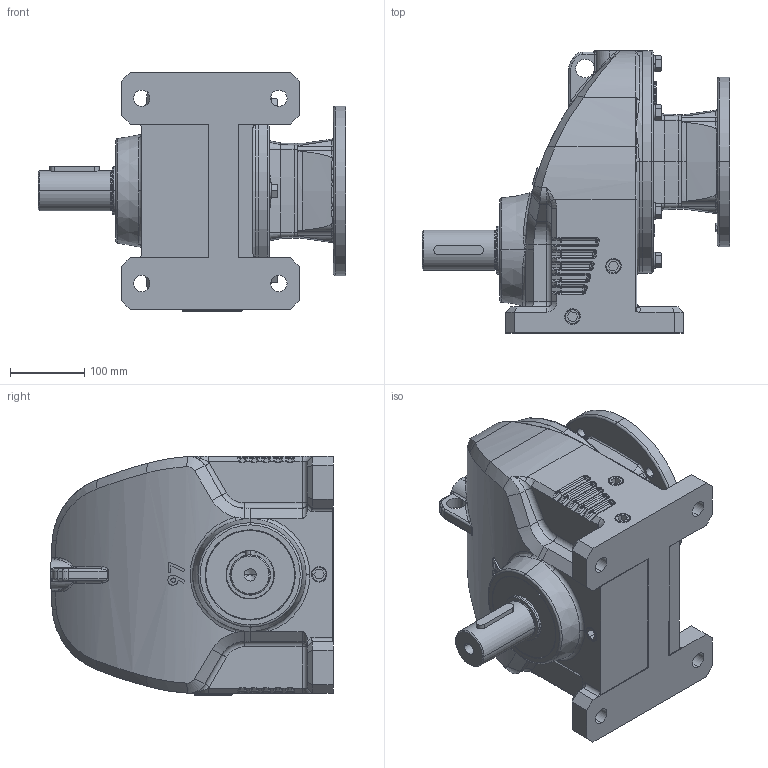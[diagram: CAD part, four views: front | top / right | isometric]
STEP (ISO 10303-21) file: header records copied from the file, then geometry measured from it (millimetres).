
FILE_DESCRIPTION (( 'STEP AP203' ), '1' );
FILE_NAME ('RX097HF-213TC.STEP', '2015-03-16T05:53:56', ( 'user' ), ( '' ), 'SwSTEP 2.0', 'SolidWorks 2012', '' );
FILE_SCHEMA (( 'CONFIG_CONTROL_DESIGN' ));
Length unit declared in the file: millimetre
Products named in the file (27): RX097HF-213TC; JSPC050060005A; PKD1_2067; PCA050; PBA6310_SKF - 6310 - 10,DE,NC,10_68; 097法蘭入力組合213T_213-∮22; KNGH213T22_KNGH213T22; PBA6211_SKF - 6211 - 14,DE,NC,14_68; PBA6210; PWS12; PTBA12040; JKGA2226R_JKGA2226R; PCA022_JIS B 2804 Shaft use 22; PKD0606022; PSS055080101; PTAA12035; KFGG213T; JHGA09707; JKGB10784L_JKGB10784L; PSS065120151; PKD1409027S; PJB04; PCA055_JIS B 2804 Shaft use 55; PCB120; PBA6311_SKF - 6311 - 10,DE,NC,10_68; KEGX097; JCHX097
Assembly tree (44 placements, depth 3):
  RX097HF-213TC
    JCHX097
    KEGX097
    PBA6311_SKF - 6311 - 10,DE,NC,10_68
    PCB120
    PCA055_JIS B 2804 Shaft use 55
    PJB04  x5
    PKD1409027S
    PSS065120151
    JKGB10784L_JKGB10784L
    097法蘭入力組合213T_213-∮22
      JHGA09707
      KFGG213T
      PTAA12035  x4
      PSS055080101
      PKD0606022
      PCA022_JIS B 2804 Shaft use 22
      JKGA2226R_JKGA2226R
      PTBA12040  x6
      PWS12  x6
      PBA6210
      PBA6211_SKF - 6211 - 14,DE,NC,14_68
      KNGH213T22_KNGH213T22
      PJB04
    PBA6310_SKF - 6310 - 10,DE,NC,10_68
    PCA050
    PKD1_2067
    JSPC050060005A
Bounding box: 415.5 x 381 x 323 mm (x, y, z)
Volume: 7970586.4 mm3; surface area: 1603114.9 mm2
Topology: 43 solids, 43 shells, 2316 faces, 6192 edges, 3866 vertices
Faces by surface type: cylinder 727, plane 655, torus 311, bspline 304, cone 215, sphere 104
Entity records: 88945 total; most frequent: CARTESIAN_POINT 36292, ORIENTED_EDGE 10888, DIRECTION 9857, EDGE_CURVE 5444, AXIS2_PLACEMENT_3D 4033, VERTEX_POINT 3438, EDGE_LOOP 2282, CIRCLE 2222
